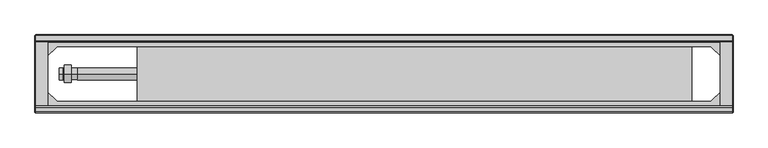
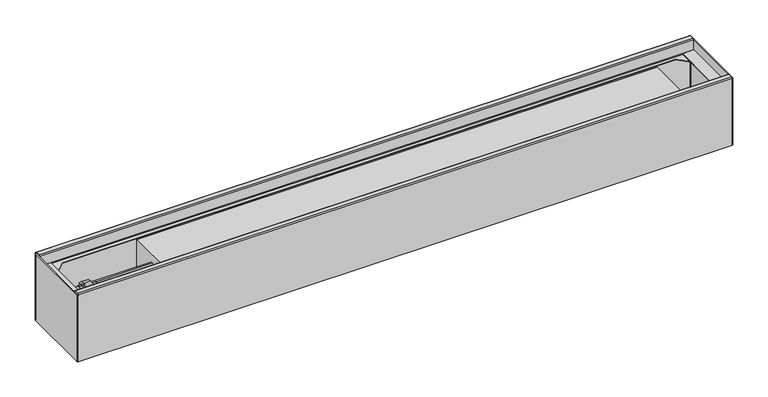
"""IFC4 building model written with IfcOpenShell, lengths in millimetres: proxy geometry, TECHNO_Конвектор напольный_Vita KPZ 135 : KPZ 135-130."""

from ifc_helpers import new_model, si_unit, frame, origin, place, context, project, spatial, polyline, circle_curve, ellipse_curve, outline, extrude, source, transform, mapped, element, save
from ifc_brep_helpers import plane_surface, cylinder_surface, revolved_surface, advanced_brep


def mechanical_equipment_6e3047bc(model_context):
    return source(origin(), model_context, "Body", "SolidModel", [
        advanced_brep(
        [(-537.4, -167.5, 164.0), (-537.4, -167.5, 194.0), (-537.4, -167.5, 189.5), (-537.4, -167.5, 168.5), (-549.9, -167.5, 164.0), (-549.9, -167.5, 194.0), (-549.9, -167.5, 167.0), (-549.9, -167.5, 191.0), (-551.4, -167.5, 168.5), (-551.4, -167.5, 189.5), (-527.4, -167.5, 189.0), (-527.4, -167.5, 169.0), (-558.0, -167.5, 168.5), (-558.0, -167.5, 189.5), (-558.0, -167.5, 179.0), (-424.0, -167.5, 169.0), (-424.0, -167.5, 189.0), (-424.0, -167.5, 179.0)],
        [
            (0, 1, circle_curve(frame((-537.4, -167.5, 179.0), z_axis=(1.0, 0.0, 0.0), x_axis=(0.0, 0.0, 1.0)), 15.0)),
            (1, 2),
            (2, 3, circle_curve(frame((-537.4, -167.5, 179.0), z_axis=(-1.0, 0.0, 0.0), x_axis=(0.0, 0.0, 1.0)), 10.5)),
            (3, 0),
            (1, 0, circle_curve(frame((-537.4, -167.5, 179.0), z_axis=(1.0, 0.0, 0.0), x_axis=(0.0, 0.0, 1.0)), 15.0)),
            (3, 2, circle_curve(frame((-537.4, -167.5, 179.0), z_axis=(-1.0, 0.0, 0.0), x_axis=(0.0, 0.0, 1.0)), 10.5)),
            (4, 5, circle_curve(frame((-549.9, -167.5, 179.0), z_axis=(1.0, 0.0, 0.0), x_axis=(0.0, 0.0, 1.0)), 15.0)),
            (5, 1),
            (0, 4),
            (5, 4, circle_curve(frame((-549.9, -167.5, 179.0), z_axis=(1.0, 0.0, 0.0), x_axis=(0.0, 0.0, 1.0)), 15.0)),
            (6, 7, circle_curve(frame((-549.9, -167.5, 179.0), z_axis=(1.0, 0.0, 0.0), x_axis=(0.0, 0.0, 1.0)), 12.0)),
            (7, 5),
            (4, 6),
            (7, 6, circle_curve(frame((-549.9, -167.5, 179.0), z_axis=(1.0, 0.0, 0.0), x_axis=(0.0, 0.0, 1.0)), 12.0)),
            (8, 9, circle_curve(frame((-551.4, -167.5, 179.0), z_axis=(1.0, 0.0, 0.0), x_axis=(0.0, 0.0, 1.0)), 10.5)),
            (9, 7),
            (6, 8),
            (9, 8, circle_curve(frame((-551.4, -167.5, 179.0), z_axis=(1.0, 0.0, 0.0), x_axis=(0.0, 0.0, 1.0)), 10.5)),
            (2, 10),
            (10, 11, circle_curve(frame((-527.4, -167.5, 179.0), z_axis=(-1.0, 0.0, 0.0), x_axis=(0.0, 0.0, 1.0)), 10.0)),
            (11, 3),
            (11, 10, circle_curve(frame((-527.4, -167.5, 179.0), z_axis=(-1.0, 0.0, 0.0), x_axis=(0.0, 0.0, 1.0)), 10.0)),
            (12, 13, circle_curve(frame((-558.0, -167.5, 179.0), z_axis=(1.0, 0.0, 0.0), x_axis=(0.0, 0.0, 1.0)), 10.5)),
            (13, 9),
            (8, 12),
            (13, 12, circle_curve(frame((-558.0, -167.5, 179.0), z_axis=(1.0, 0.0, 0.0), x_axis=(0.0, 0.0, 1.0)), 10.5)),
            (14, 13),
            (12, 14),
            (15, 16, circle_curve(frame((-424.0, -167.5, 179.0), z_axis=(1.0, 0.0, 0.0), x_axis=(0.0, 0.0, 1.0)), 10.0)),
            (16, 17),
            (17, 15),
            (16, 15, circle_curve(frame((-424.0, -167.5, 179.0), z_axis=(1.0, 0.0, 0.0), x_axis=(0.0, 0.0, 1.0)), 10.0)),
            (10, 16),
            (15, 11),
        ],
        [
            plane_surface(frame((-537.4, -167.5, 179.0), z_axis=(1.0, 0.0, 0.0), x_axis=(0.0, 0.0, 1.0))),
            cylinder_surface(frame((-552.4, -167.5, 179.0), z_axis=(-1.0, 0.0, 0.0), x_axis=(0.0, 0.0, 1.0)), 15.0),
            plane_surface(frame((-549.9, -167.5, 179.0), z_axis=(-1.0, 0.0, 0.0), x_axis=(0.0, 0.0, 1.0))),
            revolved_surface(polyline([(-549.9, -167.5, 191.0), (-551.4, -167.5, 189.5)]), (-552.4, -167.5, 179.0), (-1.0, 0.0, 0.0)),
            revolved_surface(polyline([(-527.4, -167.5, 189.0), (-537.4, -167.5, 189.5)]), (-552.4, -167.5, 179.0), (-1.0, 0.0, 0.0)),
            cylinder_surface(frame((-552.4, -167.5, 179.0), z_axis=(-1.0, 0.0, 0.0), x_axis=(0.0, 0.0, 1.0)), 10.5),
            plane_surface(frame((-558.0, -167.5, 179.0), z_axis=(-1.0, 0.0, 0.0), x_axis=(0.0, 0.0, 1.0))),
            plane_surface(frame((-424.0, -167.5, 179.0), z_axis=(1.0, 0.0, 0.0), x_axis=(0.0, 0.0, 1.0))),
            cylinder_surface(frame((-552.4, -167.5, 179.0), z_axis=(-1.0, 0.0, 0.0), x_axis=(0.0, 0.0, 1.0)), 10.0),
        ],
        [
            (0, [[1, 2, 3, 4]]),
            (0, [[5, -4, 6, -2]]),
            (1, [[7, 8, -1, 9]]),
            (1, [[10, -9, -5, -8]]),
            (2, [[11, 12, -7, 13]]),
            (2, [[14, -13, -10, -12]]),
            (3, [[15, 16, -11, 17]]),
            (3, [[18, -17, -14, -16]]),
            (4, [[-3, 19, 20, 21]]),
            (4, [[-6, -21, 22, -19]]),
            (5, [[23, 24, -15, 25]]),
            (5, [[26, -25, -18, -24]]),
            (6, [[27, -23, 28]]),
            (6, [[-28, -26, -27]]),
            (7, [[29, 30, 31]]),
            (7, [[32, -31, -30]]),
            (8, [[-20, 33, -29, 34]]),
            (8, [[-22, -34, -32, -33]]),
        ],
    ),
        advanced_brep(
        [(-512.5, -167.5, 105.9), (-527.5, -167.5, 105.9), (-512.5, -167.5, 121.5), (-527.5, -167.5, 136.5), (-424.0, -167.5, 121.5), (-424.0, -167.5, 136.5)],
        [
            (0, 1, circle_curve(frame((-520.0, -167.5, 105.9), z_axis=(0.0, 0.0, -1.0), x_axis=(-1.0, 0.0, 0.0)), 7.5)),
            (1, 0, circle_curve(frame((-520.0, -167.5, 105.9), z_axis=(0.0, 0.0, -1.0), x_axis=(-1.0, 0.0, 0.0)), 7.5)),
            (0, 2),
            (2, 3, ellipse_curve(frame((-520.0, -167.5, 129.0), z_axis=(-0.7071067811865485, 0.0, -0.7071067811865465), x_axis=(0.7071067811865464, 0.0, -0.7071067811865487)), 10.6066017, 7.5)),
            (3, 1),
            (3, 2, ellipse_curve(frame((-520.0, -167.5, 129.0), z_axis=(-0.7071067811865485, 0.0, -0.7071067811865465), x_axis=(0.7071067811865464, 0.0, -0.7071067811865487)), 10.6066017, 7.5)),
            (4, 5, circle_curve(frame((-424.0, -167.5, 129.0), z_axis=(1.0, 0.0, 0.0), x_axis=(0.0, 0.0, 1.0)), 7.5)),
            (5, 4, circle_curve(frame((-424.0, -167.5, 129.0), z_axis=(1.0, 0.0, 0.0), x_axis=(0.0, 0.0, 1.0)), 7.5)),
            (2, 4),
            (5, 3),
        ],
        [
            plane_surface(frame((-520.0, -167.5, 105.9), z_axis=(0.0, 0.0, -1.0), x_axis=(0.0, -1.0, 0.0))),
            cylinder_surface(frame((-520.0, -167.5, 105.9), z_axis=(0.0, 0.0, -1.0), x_axis=(-1.0, 0.0, 0.0)), 7.5),
            plane_surface(frame((-424.0, -167.5, 129.0), z_axis=(1.0, 0.0, 0.0), x_axis=(0.0, -1.0, 0.0))),
            cylinder_surface(frame((-520.0, -167.5, 129.0), z_axis=(-1.0, 0.0, 0.0), x_axis=(0.0, 0.0, 1.0)), 7.5),
        ],
        [
            (0, [[1, 2]]),
            (1, [[-1, 3, 4, 5]]),
            (1, [[-2, -5, 6, -3]]),
            (2, [[7, 8]]),
            (3, [[-4, 9, -8, 10]]),
            (3, [[-6, -10, -7, -9]]),
        ],
    ),
        extrude(outline(polyline([(529.0, -117.5), (529.0, -217.5), (-424.0, -217.5), (-424.0, -117.5), (529.0, -117.5)])), frame((0.0, 0.0, 103.87), z_axis=(0.0, 0.0, 1.0), x_axis=(1.0, 0.0, 0.0)), (0.0, 0.0, 1.0), 100.0),
        extrude(outline(polyline([(-585.5004, -102.0), (-585.5004, -233.0), (-599.0, -233.0), (-599.0, -102.0), (-585.5004, -102.0)])), frame((0.0, 0.0, 101.83), z_axis=(0.0, 0.0, 1.0), x_axis=(1.0, 0.0, 0.0)), (0.0, 0.0, 1.0), 1.0002),
        extrude(outline(polyline([(585.5004, -102.0), (599.0, -102.0), (599.0, -233.0), (585.5004, -233.0), (585.5004, -102.0)])), frame((0.0, 0.0, 101.83), z_axis=(0.0, 0.0, 1.0), x_axis=(1.0, 0.0, 0.0)), (0.0, 0.0, 1.0), 1.0002),
        extrude(outline(polyline([(-599.0, -222.2), (-599.0, -112.8), (-578.0, -112.8), (-578.0, -222.2), (-599.0, -222.2)])), frame((0.0, 0.0, 208.83), z_axis=(0.0, 0.0, 1.0), x_axis=(1.0, 0.0, 0.0)), (0.0, 0.0, 1.0), 1.0002),
        extrude(outline(polyline([(599.0, -222.2), (578.0, -222.2), (578.0, -112.8), (599.0, -112.8), (599.0, -222.2)])), frame((0.0, 0.0, 208.83), z_axis=(0.0, 0.0, 1.0), x_axis=(1.0, 0.0, 0.0)), (0.0, 0.0, 1.0), 1.0002),
        advanced_brep(
        [(-598.2, -101.8, 230.83), (-598.2, -100.0, 229.03), (-598.2, -101.0, 229.03), (-598.2, -101.0, 207.83), (-598.2, -138.5, 207.83), (-598.2, -138.5, 208.83), (-598.2, -112.8, 208.83), (-598.2, -112.0, 209.63), (-598.2, -112.0, 229.03), (-598.2, -110.2, 230.83), (-598.2, -233.2, 230.83), (-598.2, -224.8, 230.83), (-598.2, -223.0, 229.03), (-598.2, -223.0, 209.63), (-598.2, -222.2, 208.83), (-598.2, -196.5, 208.83), (-598.2, -196.5, 207.83), (-598.2, -234.0, 207.83), (-598.2, -234.0, 229.03), (-598.2, -235.0, 229.03), (598.2, -101.8, 230.83), (598.2, -110.2, 230.83), (598.2, -112.0, 229.03), (598.2, -112.0, 209.63), (598.2, -112.8, 208.83), (598.2, -138.5, 208.83), (598.2, -138.5, 207.83), (598.2, -101.0, 207.83), (598.2, -101.0, 229.03), (598.2, -100.0, 229.03), (598.2, -233.2, 230.83), (598.2, -235.0, 229.03), (598.2, -234.0, 229.03), (598.2, -234.0, 207.83), (598.2, -196.5, 207.83), (598.2, -196.5, 208.83), (598.2, -222.2, 208.83), (598.2, -223.0, 209.63), (598.2, -223.0, 229.03), (598.2, -224.8, 230.83), (-580.3, -138.5, 208.83), (-561.8, -120.0, 208.83), (561.8, -120.0, 208.83), (580.3, -138.5, 208.83), (-580.3, -138.5, 207.83), (580.3, -138.5, 207.83), (561.8, -120.0, 207.83), (-561.8, -120.0, 207.83), (598.2, -100.0, 100.0), (-598.2, -100.0, 100.0), (-598.2, -235.0, 100.0), (598.2, -235.0, 100.0), (580.3, -196.5, 207.83), (-580.3, -196.5, 207.83), (-561.8, -215.0, 207.83), (561.8, -215.0, 207.83), (-580.3, -196.5, 208.83), (580.3, -196.5, 208.83), (561.8, -215.0, 208.83), (-561.8, -215.0, 208.83), (-600.0, -101.8, 229.03), (-600.0, -233.2, 229.03), (-599.0, -233.2, 229.03), (-599.0, -101.8, 229.03), (600.0, -233.2, 229.03), (600.0, -101.8, 229.03), (599.0, -101.8, 229.03), (599.0, -233.2, 229.03), (600.0, -101.8, 100.0), (600.0, -233.2, 100.0), (-600.0, -233.2, 100.0), (-600.0, -101.8, 100.0), (599.0, -101.8, 100.0), (598.2, -101.0, 100.0), (598.2, -113.0, 100.0), (-598.2, -113.0, 100.0), (-598.2, -101.0, 100.0), (-599.0, -101.8, 100.0), (-599.0, -233.2, 100.0), (-598.2, -234.0, 100.0), (-598.2, -222.0, 100.0), (598.2, -222.0, 100.0), (598.2, -234.0, 100.0), (599.0, -233.2, 100.0), (-598.2, -101.0, 100.83), (598.2, -101.0, 100.83), (598.2, -234.0, 100.83), (-598.2, -234.0, 100.83), (-598.2, -113.0, 100.83), (598.2, -113.0, 100.83), (598.2, -222.0, 100.83), (-598.2, -222.0, 100.83)],
        [
            (0, 1, circle_curve(frame((-598.2, -101.8, 229.03), z_axis=(-1.0, 0.0, 0.0), x_axis=(0.0, 1.0, 0.0)), 1.8)),
            (1, 2),
            (2, 3),
            (3, 4),
            (4, 5),
            (5, 6),
            (6, 7, circle_curve(frame((-598.2, -112.8, 209.63), z_axis=(1.0, 0.0, 0.0), x_axis=(0.0, 1.0, 0.0)), 0.8)),
            (7, 8),
            (8, 9, circle_curve(frame((-598.2, -110.2, 229.03), z_axis=(-1.0, 0.0, 0.0), x_axis=(0.0, 1.0, 0.0)), 1.8)),
            (9, 0),
            (10, 11),
            (11, 12, circle_curve(frame((-598.2, -224.8, 229.03), z_axis=(-1.0, 0.0, 0.0), x_axis=(0.0, 1.0, 0.0)), 1.8)),
            (12, 13),
            (13, 14, circle_curve(frame((-598.2, -222.2, 209.63), z_axis=(1.0, 0.0, 0.0), x_axis=(0.0, 1.0, 0.0)), 0.8)),
            (14, 15),
            (15, 16),
            (16, 17),
            (17, 18),
            (18, 19),
            (19, 10, circle_curve(frame((-598.2, -233.2, 229.03), z_axis=(-1.0, 0.0, 0.0), x_axis=(0.0, 1.0, 0.0)), 1.8)),
            (20, 21),
            (21, 22, circle_curve(frame((598.2, -110.2, 229.03), z_axis=(1.0, 0.0, 0.0), x_axis=(0.0, 1.0, 0.0)), 1.8)),
            (22, 23),
            (23, 24, circle_curve(frame((598.2, -112.8, 209.63), z_axis=(-1.0, 0.0, 0.0), x_axis=(0.0, 1.0, 0.0)), 0.8)),
            (24, 25),
            (25, 26),
            (26, 27),
            (27, 28),
            (28, 29),
            (29, 20, circle_curve(frame((598.2, -101.8, 229.03), z_axis=(1.0, 0.0, 0.0), x_axis=(0.0, 1.0, 0.0)), 1.8)),
            (30, 31, circle_curve(frame((598.2, -233.2, 229.03), z_axis=(1.0, 0.0, 0.0), x_axis=(0.0, 1.0, 0.0)), 1.8)),
            (31, 32),
            (32, 33),
            (33, 34),
            (34, 35),
            (35, 36),
            (36, 37, circle_curve(frame((598.2, -222.2, 209.63), z_axis=(-1.0, 0.0, 0.0), x_axis=(0.0, 1.0, 0.0)), 0.8)),
            (37, 38),
            (38, 39, circle_curve(frame((598.2, -224.8, 229.03), z_axis=(1.0, 0.0, 0.0), x_axis=(0.0, 1.0, 0.0)), 1.8)),
            (39, 30),
            (9, 21),
            (20, 0),
            (8, 22),
            (7, 23),
            (6, 24),
            (5, 40),
            (40, 41),
            (41, 42),
            (42, 43),
            (43, 25),
            (4, 44),
            (44, 40),
            (43, 45),
            (45, 26),
            (45, 46),
            (46, 47),
            (47, 44),
            (3, 27),
            (1, 29),
            (29, 48),
            (48, 49),
            (49, 1),
            (19, 31),
            (30, 10),
            (19, 50),
            (50, 51),
            (51, 31),
            (52, 34),
            (33, 17),
            (16, 53),
            (53, 54),
            (54, 55),
            (55, 52),
            (15, 56),
            (56, 53),
            (52, 57),
            (57, 35),
            (14, 36),
            (57, 58),
            (58, 59),
            (59, 56),
            (13, 37),
            (12, 38),
            (11, 39),
            (42, 46),
            (41, 47),
            (58, 55),
            (54, 59),
            (1, 60, circle_curve(frame((-598.2, -101.8, 229.03), z_axis=(0.0, 0.0, 1.0), x_axis=(1.0, 0.0, 0.0)), 1.8)),
            (60, 61),
            (61, 19, circle_curve(frame((-598.2, -233.2, 229.03), z_axis=(0.0, 0.0, 1.0), x_axis=(1.0, 0.0, 0.0)), 1.8)),
            (18, 62, circle_curve(frame((-598.2, -233.2, 229.03), z_axis=(0.0, 0.0, -1.0), x_axis=(1.0, 0.0, 0.0)), 0.8)),
            (62, 63),
            (63, 2, circle_curve(frame((-598.2, -101.8, 229.03), z_axis=(0.0, 0.0, -1.0), x_axis=(1.0, 0.0, 0.0)), 0.8)),
            (31, 64, circle_curve(frame((598.2, -233.2, 229.03), z_axis=(0.0, 0.0, 1.0), x_axis=(1.0, 0.0, 0.0)), 1.8)),
            (64, 65),
            (65, 29, circle_curve(frame((598.2, -101.8, 229.03), z_axis=(0.0, 0.0, 1.0), x_axis=(1.0, 0.0, 0.0)), 1.8)),
            (28, 66, circle_curve(frame((598.2, -101.8, 229.03), z_axis=(0.0, 0.0, -1.0), x_axis=(1.0, 0.0, 0.0)), 0.8)),
            (66, 67),
            (67, 32, circle_curve(frame((598.2, -233.2, 229.03), z_axis=(0.0, 0.0, -1.0), x_axis=(1.0, 0.0, 0.0)), 0.8)),
            (48, 68, circle_curve(frame((598.2, -101.8, 100.0), z_axis=(0.0, 0.0, -1.0), x_axis=(1.0, 0.0, 0.0)), 1.8)),
            (68, 69),
            (69, 51, circle_curve(frame((598.2, -233.2, 100.0), z_axis=(0.0, 0.0, -1.0), x_axis=(1.0, 0.0, 0.0)), 1.8)),
            (50, 70, circle_curve(frame((-598.2, -233.2, 100.0), z_axis=(0.0, 0.0, -1.0), x_axis=(1.0, 0.0, 0.0)), 1.8)),
            (70, 71),
            (71, 49, circle_curve(frame((-598.2, -101.8, 100.0), z_axis=(0.0, 0.0, -1.0), x_axis=(1.0, 0.0, 0.0)), 1.8)),
            (72, 73, circle_curve(frame((598.2, -101.8, 100.0), z_axis=(0.0, 0.0, 1.0), x_axis=(1.0, 0.0, 0.0)), 0.8)),
            (73, 74),
            (74, 75),
            (75, 76),
            (76, 77, circle_curve(frame((-598.2, -101.8, 100.0), z_axis=(0.0, 0.0, 1.0), x_axis=(1.0, 0.0, 0.0)), 0.8)),
            (77, 78),
            (78, 79, circle_curve(frame((-598.2, -233.2, 100.0), z_axis=(0.0, 0.0, 1.0), x_axis=(1.0, 0.0, 0.0)), 0.8)),
            (79, 80),
            (80, 81),
            (81, 82),
            (82, 83, circle_curve(frame((598.2, -233.2, 100.0), z_axis=(0.0, 0.0, 1.0), x_axis=(1.0, 0.0, 0.0)), 0.8)),
            (83, 72),
            (71, 60),
            (63, 77),
            (76, 84),
            (84, 3),
            (84, 85),
            (85, 27),
            (85, 73),
            (72, 66),
            (83, 67),
            (64, 69),
            (68, 65),
            (82, 86),
            (86, 33),
            (86, 87),
            (87, 17),
            (87, 79),
            (78, 62),
            (70, 61),
            (88, 89),
            (89, 85),
            (84, 88),
            (90, 91),
            (91, 87),
            (86, 90),
            (74, 89),
            (88, 75),
            (80, 91),
            (90, 81),
        ],
        [
            plane_surface(frame((-598.2, -110.2, 230.83), z_axis=(-1.0, 0.0, 0.0), x_axis=(0.0, 1.0, 0.0))),
            plane_surface(frame((598.2, -110.2, 230.83), z_axis=(1.0, 0.0, 0.0), x_axis=(0.0, -1.0, 0.0))),
            plane_surface(frame((598.2, -101.8, 230.83), z_axis=(0.0, 0.0, 1.0), x_axis=(-1.0, 0.0, 0.0))),
            cylinder_surface(frame((-598.2, -110.2, 229.03), z_axis=(1.0, 0.0, 0.0), x_axis=(0.0, 1.0, 0.0)), 1.8),
            plane_surface(frame((598.2, -112.0, 229.03), z_axis=(0.0, -1.0, 0.0), x_axis=(-1.0, 0.0, 0.0))),
            revolved_surface(polyline([(-598.2, -112.0, 209.63), (598.2, -112.0, 209.63)]), (-598.2, -112.8, 209.63), (-1.0, 0.0, 0.0)),
            plane_surface(frame((598.2, -112.8, 208.83), z_axis=(0.0, 0.0, 1.0), x_axis=(-1.0, 0.0, 0.0))),
            plane_surface(frame((598.2, -138.5, 208.83), z_axis=(0.0, -1.0, 0.0), x_axis=(-1.0, 0.0, 0.0))),
            plane_surface(frame((598.2, -138.5, 207.83), z_axis=(0.0, 0.0, -1.0), x_axis=(-1.0, 0.0, 0.0))),
            plane_surface(frame((598.2, -100.0, 207.83), z_axis=(0.0, 1.0, 0.0), x_axis=(-1.0, 0.0, 0.0))),
            cylinder_surface(frame((-598.2, -101.8, 229.03), z_axis=(1.0, 0.0, 0.0), x_axis=(0.0, 1.0, 0.0)), 1.8),
            cylinder_surface(frame((0.0, -233.2, 229.03), z_axis=(1.0, 0.0, 0.0), x_axis=(0.0, 1.0, 0.0)), 1.8),
            plane_surface(frame((598.2, -235.0, 229.03), z_axis=(0.0, -1.0, 0.0), x_axis=(-1.0, 0.0, 0.0))),
            plane_surface(frame((598.2, -235.0, 207.83), z_axis=(0.0, 0.0, -1.0), x_axis=(-1.0, 0.0, 0.0))),
            plane_surface(frame((598.2, -196.5, 207.83), z_axis=(0.0, 1.0, 0.0), x_axis=(-1.0, 0.0, 0.0))),
            plane_surface(frame((598.2, -196.5, 208.83), z_axis=(0.0, 0.0, 1.0), x_axis=(-1.0, 0.0, 0.0))),
            revolved_surface(polyline([(-598.2, -221.39999999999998, 209.63), (598.2, -221.39999999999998, 209.63)]), (0.0, -222.2, 209.63), (-1.0, 0.0, 0.0)),
            plane_surface(frame((598.2, -223.0, 209.63), z_axis=(0.0, 1.0, 0.0), x_axis=(-1.0, 0.0, 0.0))),
            cylinder_surface(frame((0.0, -224.8, 229.03), z_axis=(1.0, 0.0, 0.0), x_axis=(0.0, 1.0, 0.0)), 1.8),
            plane_surface(frame((598.2, -224.8, 230.83), z_axis=(0.0, 0.0, 1.0), x_axis=(-1.0, 0.0, 0.0))),
            plane_surface(frame((580.3, -138.5, 208.83), z_axis=(-0.7071067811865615, -0.7071067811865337, 0.0), x_axis=(0.0, 0.0, -1.0))),
            plane_surface(frame((561.8, -120.0, 208.83), z_axis=(0.0, -1.0, 0.0), x_axis=(0.0, 0.0, -1.0))),
            plane_surface(frame((-561.8, -120.0, 208.83), z_axis=(0.707106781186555, -0.7071067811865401, 0.0), x_axis=(0.0, 0.0, -1.0))),
            plane_surface(frame((-561.8, -215.0, 208.83), z_axis=(0.0, 1.0, 0.0), x_axis=(0.0, 0.0, -1.0))),
            plane_surface(frame((561.8, -215.0, 208.83), z_axis=(-0.7071067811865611, 0.7071067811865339, 0.0), x_axis=(0.0, 0.0, -1.0))),
            plane_surface(frame((-580.3, -196.5, 208.83), z_axis=(0.7071067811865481, 0.7071067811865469, 0.0), x_axis=(0.0, 0.0, -1.0))),
            plane_surface(frame((-598.2, -100.0, 229.03), z_axis=(0.0, 0.0, 1.0), x_axis=(-1.0, 0.0, 0.0))),
            plane_surface(frame((-598.2, -100.0, 100.0), z_axis=(0.0, 0.0, -1.0), x_axis=(1.0, 0.0, 0.0))),
            cylinder_surface(frame((-598.2, -101.8, 100.0), z_axis=(0.0, 0.0, 1.0), x_axis=(1.0, 0.0, 0.0)), 1.8),
            revolved_surface(polyline([(-597.4000000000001, -101.8, 100.0), (-597.4000000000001, -101.8, 229.03)]), (-598.2, -101.8, 0.0), (0.0, 0.0, -1.0)),
            plane_surface(frame((-598.2, -101.0, 229.03), z_axis=(0.0, -1.0, 0.0), x_axis=(0.0, 0.0, -1.0))),
            revolved_surface(polyline([(599.0, -101.8, 100.0), (599.0, -101.8, 229.03)]), (598.2, -101.8, 0.0), (0.0, 0.0, -1.0)),
            plane_surface(frame((599.0, -101.8, 229.03), z_axis=(-1.0, 0.0, 0.0), x_axis=(0.0, 0.0, -1.0))),
            plane_surface(frame((600.0, -233.2, 229.03), z_axis=(1.0, 0.0, 0.0), x_axis=(0.0, 0.0, -1.0))),
            cylinder_surface(frame((598.2, -101.8, 100.0), z_axis=(0.0, 0.0, 1.0), x_axis=(1.0, 0.0, 0.0)), 1.8),
            cylinder_surface(frame((598.2, -233.2, 100.0), z_axis=(0.0, 0.0, 1.0), x_axis=(1.0, 0.0, 0.0)), 1.8),
            revolved_surface(polyline([(599.0, -233.2, 100.0), (599.0, -233.2, 229.03)]), (598.2, -233.2, 0.0), (0.0, 0.0, -1.0)),
            plane_surface(frame((598.2, -234.0, 229.03), z_axis=(0.0, 1.0, 0.0), x_axis=(0.0, 0.0, -1.0))),
            revolved_surface(polyline([(-597.4000000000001, -233.2, 100.0), (-597.4000000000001, -233.2, 229.03)]), (-598.2, -233.2, 0.0), (0.0, 0.0, -1.0)),
            plane_surface(frame((-600.0, -101.8, 229.03), z_axis=(-1.0, 0.0, 0.0), x_axis=(0.0, 0.0, -1.0))),
            cylinder_surface(frame((-598.2, -233.2, 100.0), z_axis=(0.0, 0.0, 1.0), x_axis=(1.0, 0.0, 0.0)), 1.8),
            plane_surface(frame((-599.0, -233.2, 229.03), z_axis=(1.0, 0.0, 0.0), x_axis=(0.0, 0.0, -1.0))),
            plane_surface(frame((598.2, -113.0, 100.83), z_axis=(0.0, 0.0, 1.0), x_axis=(1.0, 0.0, 0.0))),
            plane_surface(frame((-598.2, -113.0, 100.83), z_axis=(0.0, -1.0, 0.0), x_axis=(0.0, 0.0, -1.0))),
            plane_surface(frame((598.2, -113.0, 100.83), z_axis=(1.0, 0.0, 0.0), x_axis=(0.0, 0.0, -1.0))),
            plane_surface(frame((-598.2, -101.0, 100.83), z_axis=(-1.0, 0.0, 0.0), x_axis=(0.0, 0.0, -1.0))),
            plane_surface(frame((598.2, -222.0, 100.83), z_axis=(0.0, 1.0, 0.0), x_axis=(0.0, 0.0, -1.0))),
            plane_surface(frame((-598.2, -222.0, 100.83), z_axis=(-1.0, 0.0, 0.0), x_axis=(0.0, 0.0, -1.0))),
            plane_surface(frame((598.2, -234.0, 100.83), z_axis=(1.0, 0.0, 0.0), x_axis=(0.0, 0.0, -1.0))),
        ],
        [
            (0, [[1, 2, 3, 4, 5, 6, 7, 8, 9, 10]]),
            (0, [[11, 12, 13, 14, 15, 16, 17, 18, 19, 20]]),
            (1, [[21, 22, 23, 24, 25, 26, 27, 28, 29, 30]]),
            (1, [[31, 32, 33, 34, 35, 36, 37, 38, 39, 40]]),
            (2, [[-10, 41, -21, 42]]),
            (3, [[-9, 43, -22, -41]]),
            (4, [[-8, 44, -23, -43]]),
            (5, [[-7, 45, -24, -44]]),
            (6, [[-6, 46, 47, 48, 49, 50, -25, -45]]),
            (7, [[-5, 51, 52, -46]]),
            (7, [[-26, -50, 53, 54]]),
            (8, [[-54, 55, 56, 57, -51, -4, 58, -27]]),
            (9, [[59, 60, 61, 62]]),
            (10, [[-1, -42, -30, -59]]),
            (11, [[-20, 63, -31, 64]]),
            (12, [[-63, 65, 66, 67]]),
            (13, [[68, -34, 69, -17, 70, 71, 72, 73]]),
            (14, [[-16, 74, 75, -70]]),
            (14, [[-35, -68, 76, 77]]),
            (15, [[-15, 78, -36, -77, 79, 80, 81, -74]]),
            (16, [[-14, 82, -37, -78]]),
            (17, [[-13, 83, -38, -82]]),
            (18, [[-12, 84, -39, -83]]),
            (19, [[-11, -64, -40, -84]]),
            (20, [[85, -55, -53, -49]]),
            (21, [[-85, -48, 86, -56]]),
            (22, [[-86, -47, -52, -57]]),
            (23, [[87, -72, 88, -80]]),
            (24, [[-87, -79, -76, -73]]),
            (25, [[-88, -71, -75, -81]]),
            (26, [[89, 90, 91, -19, 92, 93, 94, -2]]),
            (26, [[95, 96, 97, -29, 98, 99, 100, -32]]),
            (27, [[101, 102, 103, -66, 104, 105, 106, -61], [107, 108, 109, 110, 111, 112, 113, 114, 115, 116, 117, 118]]),
            (28, [[-89, -62, -106, 119]]),
            (29, [[-94, 120, -111, 121, 122, -3]]),
            (30, [[-58, -122, 123, 124]]),
            (31, [[-98, -28, -124, 125, -107, 126]]),
            (32, [[-99, -126, -118, 127]]),
            (33, [[-96, 128, -102, 129]]),
            (34, [[-97, -129, -101, -60]]),
            (35, [[-95, -67, -103, -128]]),
            (36, [[-100, -127, -117, 130, 131, -33]]),
            (37, [[-69, -131, 132, 133]]),
            (38, [[-92, -18, -133, 134, -113, 135]]),
            (39, [[-90, -119, -105, 136]]),
            (40, [[-91, -136, -104, -65]]),
            (41, [[-93, -135, -112, -120]]),
            (42, [[137, 138, -123, 139]]),
            (42, [[140, 141, -132, 142]]),
            (43, [[-109, 143, -137, 144]]),
            (44, [[-108, -125, -138, -143]]),
            (45, [[-110, -144, -139, -121]]),
            (46, [[-115, 145, -140, 146]]),
            (47, [[-114, -134, -141, -145]]),
            (48, [[-116, -146, -142, -130]]),
        ],
    ),
    ])


if __name__ == "__main__":
    model = new_model("IFC4")
    model_context = context("Model", 3, world=origin())
    ifc_project = project(units=[si_unit("LENGTHUNIT", "METRE", prefix="MILLI")], contexts=[model_context])
    site = spatial("IfcSite", under=ifc_project)
    building = spatial("IfcBuilding", under=site)
    placement = place(None, origin())
    mechanical_equipment_shape = mechanical_equipment_6e3047bc(model_context)
    element("IfcBuildingElementProxy", 1, Name="TECHNO_Конвектор напольный_Vita KPZ 135 : KPZ 135-130", ObjectType="TECHNO_Конвектор напольный_Vita KPZ 135 : KPZ 135-130", at=placement, inside=building, context=model_context, shape_type="MappedRepresentation", body=[
        mapped(mechanical_equipment_shape, transform((0.0, 0.0, 0.0), x_axis=(1.0, 0.0, 0.0), y_axis=(0.0, 1.0, 0.0), z_axis=(0.0, 0.0, 1.0))),
    ])
    save(model, "model.ifc")
